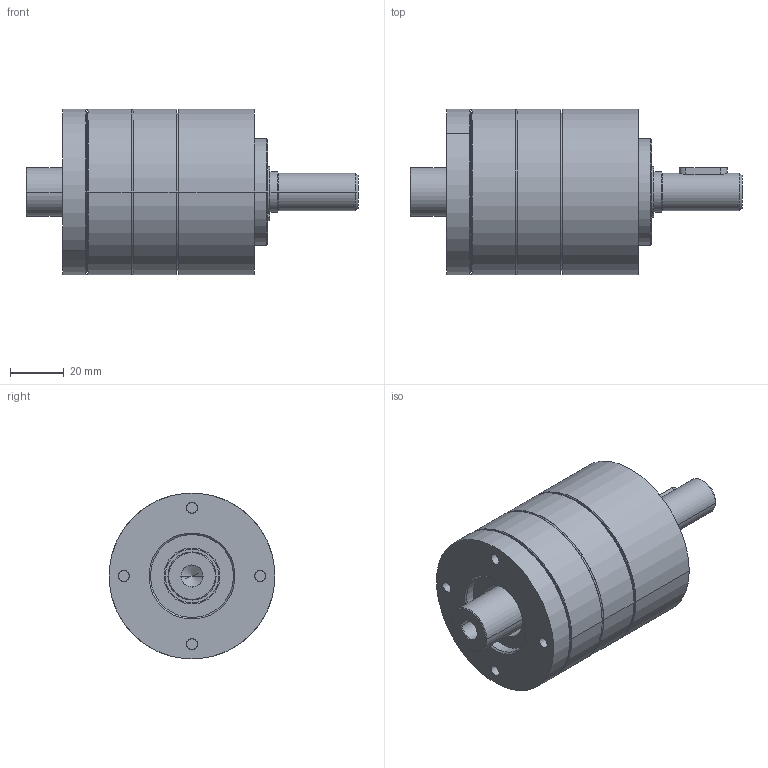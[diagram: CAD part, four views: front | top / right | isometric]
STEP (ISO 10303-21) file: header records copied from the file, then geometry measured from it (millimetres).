
FILE_DESCRIPTION((''),'2;1');
FILE_NAME('IMS62_PRO_2_STAGE_ASM','2024-09-02T13:12:24',('mhummel'),(''),'CREO PARAMETRIC BY PTC INC, 2020184','CREO PARAMETRIC BY PTC INC, 2020184','');
FILE_SCHEMA(('AUTOMOTIVE_DESIGN { 1 0 10303 214 1 1 1 1 }'));
Length unit declared in the file: millimetre
Products named in the file (14): IMS62_PRO_BEARING_FLANGE; IMS62_PRO_BALL_BEARING; IMS62_PRO_RING_GEAR_2_STAGE; IMS62_PRO_MOTOR_FLANGE; IMS62_PRO_SHIM_RING; IMS62_PRO_SHAFT_RAW_AF0; IMS62_PRO_SHAFT_ASM; IMS62_PRO_RETAINING_RING_A; IMS62_PRO_FEATHER_KEY; IMS62_PRO_THRUST_WASHER_1_STAGE; IMS62_PRO_SCREW_2_STAGE; IMS62_PRO_PINION_LONG; IMS62_PRO_PINION_SHORT; IMS62_PRO_2_STAGE_ASM
Assembly tree (17 placements, depth 3):
  IMS62_PRO_2_STAGE_ASM
    IMS62_PRO_BEARING_FLANGE
    IMS62_PRO_BALL_BEARING  x2
    IMS62_PRO_RING_GEAR_2_STAGE
    IMS62_PRO_MOTOR_FLANGE
    IMS62_PRO_SHIM_RING
    IMS62_PRO_SHAFT_ASM
      IMS62_PRO_SHAFT_RAW_AF0
    IMS62_PRO_RETAINING_RING_A
    IMS62_PRO_FEATHER_KEY
    IMS62_PRO_THRUST_WASHER_1_STAGE
    IMS62_PRO_SCREW_2_STAGE  x4
    IMS62_PRO_PINION_LONG
    IMS62_PRO_PINION_SHORT
Bounding box: 124.05 x 62 x 62 mm (x, y, z)
Volume: 170330.1 mm3; surface area: 74077.7 mm2
Topology: 20 solids, 22 shells, 409 faces, 871 edges, 520 vertices
Faces by surface type: cylinder 160, plane 97, cone 94, torus 58
Entity records: 11347 total; most frequent: DIRECTION 1773, CARTESIAN_POINT 1510, ORIENTED_EDGE 1346, AXIS2_PLACEMENT_3D 753, EDGE_CURVE 673, PRESENTATION_STYLE_ASSIGNMENT 520, STYLED_ITEM 502, CURVE_STYLE 489
